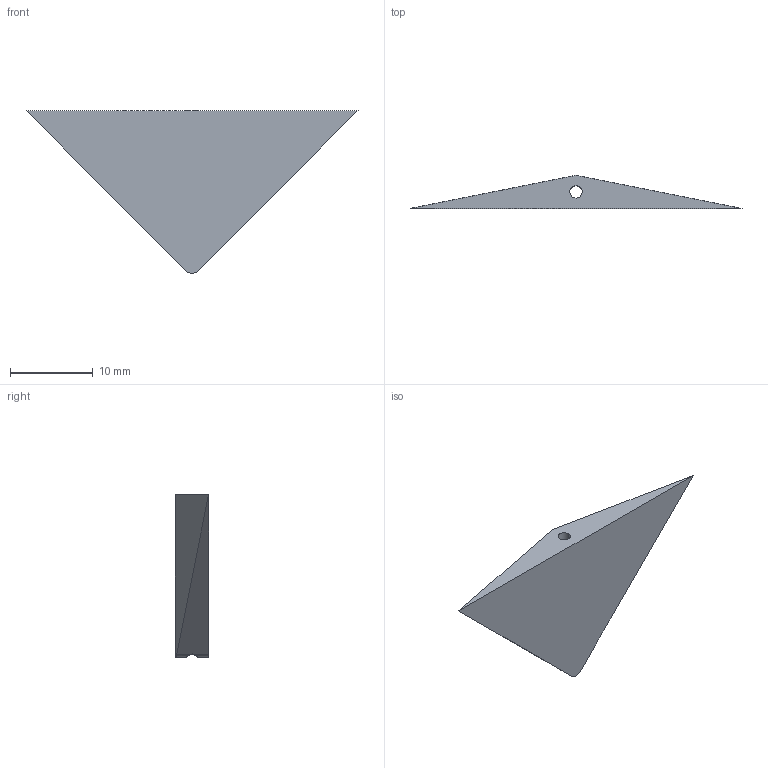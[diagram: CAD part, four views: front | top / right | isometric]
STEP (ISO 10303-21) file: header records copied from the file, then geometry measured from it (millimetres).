
FILE_DESCRIPTION (( 'STEP AP214' ), '1' );
FILE_NAME ('Flügel.STEP', '2025-06-23T11:56:14', ( '.' ), ( '.' ), 'SwSTEP 2.0', 'SolidWorks 2002127', '' );
FILE_SCHEMA (( 'AUTOMOTIVE_DESIGN' ));
Length unit declared in the file: millimetre
Products named in the file (1): Flügel
Bounding box: 40 x 4 x 19.56 mm (x, y, z)
Volume: 1031.3 mm3; surface area: 1086.6 mm2
Topology: 1 solids, 1 shells, 12 faces, 26 edges, 15 vertices
Faces by surface type: cylinder 6, plane 6
Entity records: 373 total; most frequent: CARTESIAN_POINT 96, ORIENTED_EDGE 52, DIRECTION 50, EDGE_CURVE 26, AXIS2_PLACEMENT_3D 17, LINE 16, VECTOR 16, VERTEX_POINT 15
